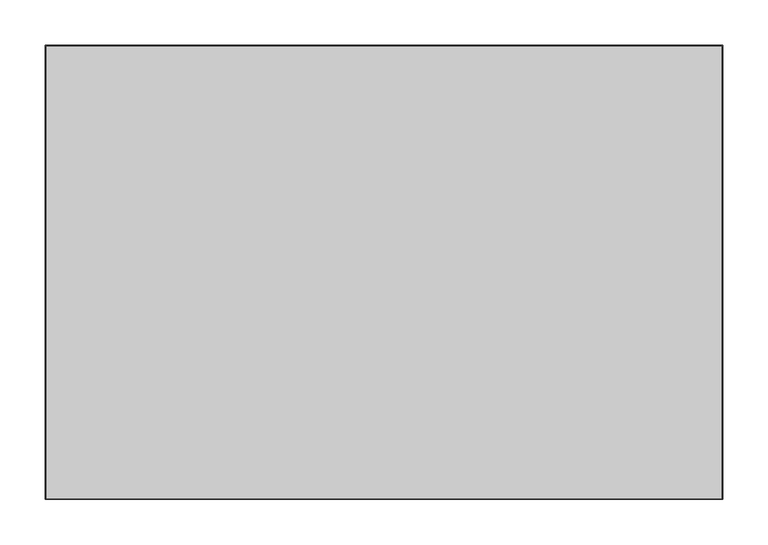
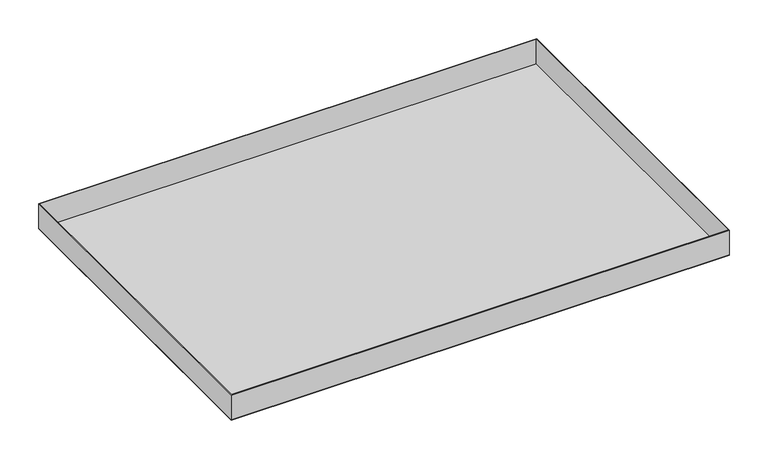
"""IFC4 building model written with IfcOpenShell, lengths in millimetres: proxy geometry, durlum_S55.4-BR_RHOMBOS_panel : durlum_S55.4-BR_RHOMBOS_panel_wall_corner."""

from ifc_helpers import new_model, si_unit, frame, origin, origin_with_axes, place, context, project, spatial, polyline, outline, extrude, source, transform, mapped, element, save


def generic_models_fdcbfbd4(model_context):
    return source(origin(), model_context, "Body", "SweptSolid", [
        extrude(outline(polyline([(372.5, 249.75), (372.5, -249.75), (-372.5, -249.75), (-372.5, 249.75), (372.5, 249.75)]), holes=[polyline([(371.5, 248.75), (-371.5, 248.75), (-371.5, -248.75), (371.5, -248.75), (371.5, 248.75)])]), frame((0.0, 0.0, 1.0), z_axis=(0.0, 0.0, 1.0), x_axis=(1.0, 0.0, 0.0)), (0.0, 0.0, 1.0), 39.0),
        extrude(outline(polyline([(372.5, 249.75), (372.5, -249.75), (-372.5, -249.75), (-372.5, 249.75), (372.5, 249.75)])), origin_with_axes(), (0.0, 0.0, 1.0), 1.0),
    ])


if __name__ == "__main__":
    model = new_model("IFC4")
    model_context = context("Model", 3, world=origin())
    ifc_project = project(units=[si_unit("LENGTHUNIT", "METRE", prefix="MILLI")], contexts=[model_context])
    site = spatial("IfcSite", under=ifc_project)
    building = spatial("IfcBuilding", under=site)
    placement = place(None, origin())
    generic_models_shape = generic_models_fdcbfbd4(model_context)
    element("IfcBuildingElementProxy", 1, Name="durlum_S55.4-BR_RHOMBOS_panel : durlum_S55.4-BR_RHOMBOS_panel_wall_corner", ObjectType="durlum_S55.4-BR_RHOMBOS_panel : durlum_S55.4-BR_RHOMBOS_panel_wall_corner", at=placement, inside=building, context=model_context, shape_type="MappedRepresentation", body=[
        mapped(generic_models_shape, transform((0.0, 0.0, 0.0), x_axis=(1.0, 0.0, 0.0), y_axis=(0.0, 1.0, 0.0), z_axis=(0.0, 0.0, 1.0))),
    ])
    save(model, "model.ifc")
